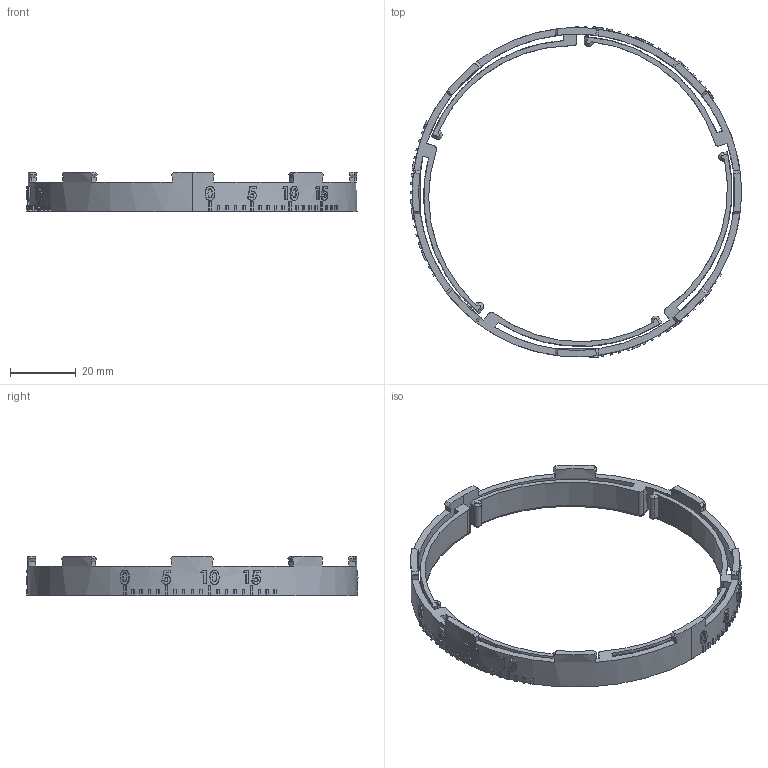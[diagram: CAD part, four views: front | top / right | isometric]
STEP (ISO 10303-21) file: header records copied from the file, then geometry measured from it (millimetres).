
FILE_DESCRIPTION (( 'STEP AP214' ), '1' );
FILE_NAME ('Clutch_v3.2.STEP', '2019-04-10T20:47:09', ( '' ), ( '' ), 'SwSTEP 2.0', 'SolidWorks 2018', '' );
FILE_SCHEMA (( 'AUTOMOTIVE_DESIGN' ));
Length unit declared in the file: millimetre
Products named in the file (1): Clutch_v3.2
Bounding box: 100.5 x 100.85 x 12 mm (x, y, z)
Volume: 9367.1 mm3; surface area: 17314.9 mm2
Topology: 12 solids, 12 shells, 2147 faces, 6352 edges, 4168 vertices
Faces by surface type: plane 852, cylinder 796, bspline 424, cone 75
Entity records: 110759 total; most frequent: CARTESIAN_POINT 55232, ORIENTED_EDGE 12704, DIRECTION 10396, EDGE_CURVE 6352, VERTEX_POINT 4168, AXIS2_PLACEMENT_3D 3889, LINE 2618, VECTOR 2618
